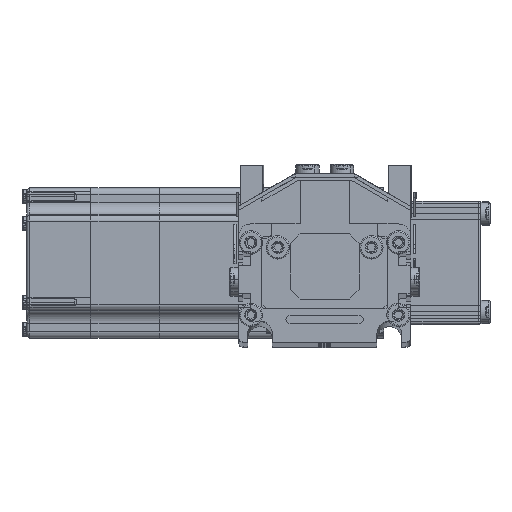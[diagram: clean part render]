
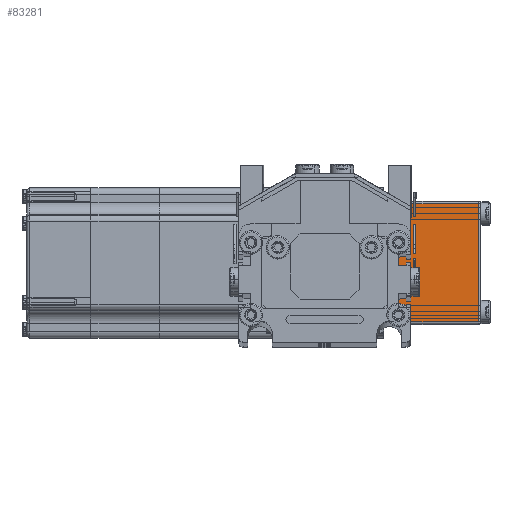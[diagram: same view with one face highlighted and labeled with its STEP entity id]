
A CAD part, top view. The second image highlights one B-rep face of the part: STEP entity #83281.
In plain terms, the highlighted planar face has unit normal (0, 0, 1) as drawn and (-1, 0, 0) by its records, which use the part's own axes.
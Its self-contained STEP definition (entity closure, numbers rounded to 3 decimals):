
#45488 = VERTEX_POINT ( 'NONE', #112231 ) ;
#45704 = EDGE_CURVE ( 'NONE', #45708, #45488, #113150, .T. ) ;
#45708 = VERTEX_POINT ( 'NONE', #113396 ) ;
#83281 = ADVANCED_FACE ( 'NONE', ( #145953 ), #146078, .F. ) ;
#83537 = EDGE_CURVE ( 'NONE', #45488, #83692, #146480, .T. ) ;
#83590 = EDGE_LOOP ( 'NONE', ( #83682, #83637, #83635, #83593 ) ) ;
#83593 = ORIENTED_EDGE ( 'NONE', *, *, #83679, .T. ) ;
#83635 = ORIENTED_EDGE ( 'NONE', *, *, #83681, .T. ) ;
#83637 = ORIENTED_EDGE ( 'NONE', *, *, #83537, .T. ) ;
#83679 = EDGE_CURVE ( 'NONE', #83695, #45708, #146458, .T. ) ;
#83681 = EDGE_CURVE ( 'NONE', #83692, #83695, #146635, .T. ) ;
#83682 = ORIENTED_EDGE ( 'NONE', *, *, #45704, .T. ) ;
#83692 = VERTEX_POINT ( 'NONE', #146415 ) ;
#83695 = VERTEX_POINT ( 'NONE', #146462 ) ;
#112231 = CARTESIAN_POINT ( 'NONE',  ( -50., -24., 0. ) ) ;
#113149 = CARTESIAN_POINT ( 'NONE',  ( -50., 25., 0. ) ) ;
#113150 = LINE ( 'NONE', #113149, #113399 ) ;
#113396 = CARTESIAN_POINT ( 'NONE',  ( -50., 24., 0. ) ) ;
#113397 = DIRECTION ( 'NONE',  ( 0., -1., 0. ) ) ;
#113399 = VECTOR ( 'NONE', #113397, 1000. ) ;
#145953 = FACE_OUTER_BOUND ( 'NONE', #83590, .T. ) ;
#146078 = PLANE ( 'NONE',  #146190 ) ;
#146154 = CARTESIAN_POINT ( 'NONE',  ( -50., 25., 39.5 ) ) ;
#146167 = DIRECTION ( 'NONE',  ( 0., 1., 0. ) ) ;
#146168 = DIRECTION ( 'NONE',  ( 1., 0., 0. ) ) ;
#146190 = AXIS2_PLACEMENT_3D ( 'NONE', #146154, #146168, #146167 ) ;
#146415 = CARTESIAN_POINT ( 'NONE',  ( -50., -24., 38.5 ) ) ;
#146452 = CARTESIAN_POINT ( 'NONE',  ( -50., 24., 39.5 ) ) ;
#146458 = LINE ( 'NONE', #146452, #146637 ) ;
#146462 = CARTESIAN_POINT ( 'NONE',  ( -50., 24., 38.5 ) ) ;
#146476 = DIRECTION ( 'NONE',  ( 0., 0., 1. ) ) ;
#146478 = VECTOR ( 'NONE', #146476, 1000. ) ;
#146479 = CARTESIAN_POINT ( 'NONE',  ( -50., -24., 39.5 ) ) ;
#146480 = LINE ( 'NONE', #146479, #146478 ) ;
#146625 = DIRECTION ( 'NONE',  ( 0., 1., 0. ) ) ;
#146626 = VECTOR ( 'NONE', #146625, 1000. ) ;
#146634 = CARTESIAN_POINT ( 'NONE',  ( -50., 25., 38.5 ) ) ;
#146635 = LINE ( 'NONE', #146634, #146626 ) ;
#146636 = DIRECTION ( 'NONE',  ( 0., 0., -1. ) ) ;
#146637 = VECTOR ( 'NONE', #146636, 1000. ) ;
